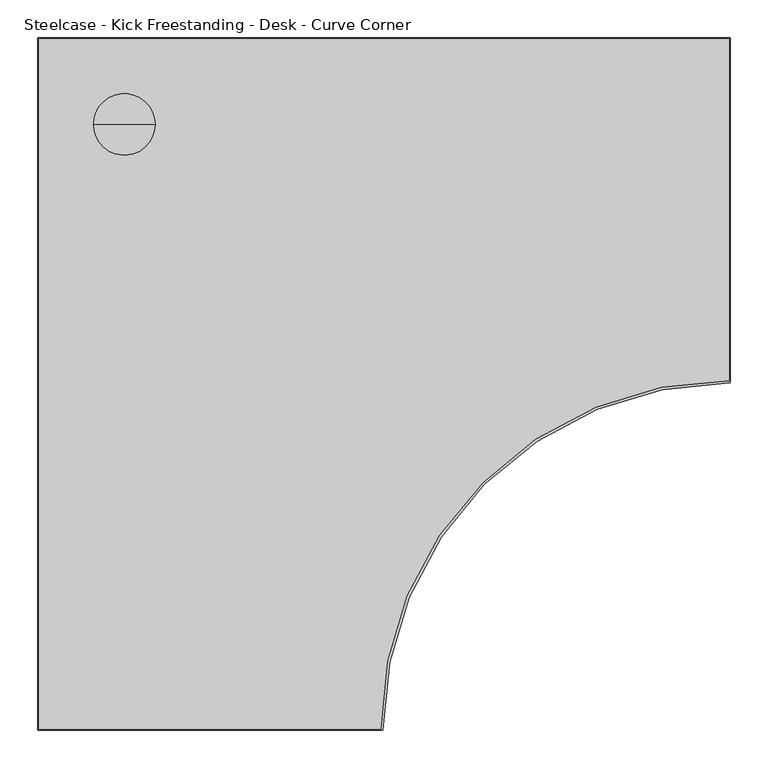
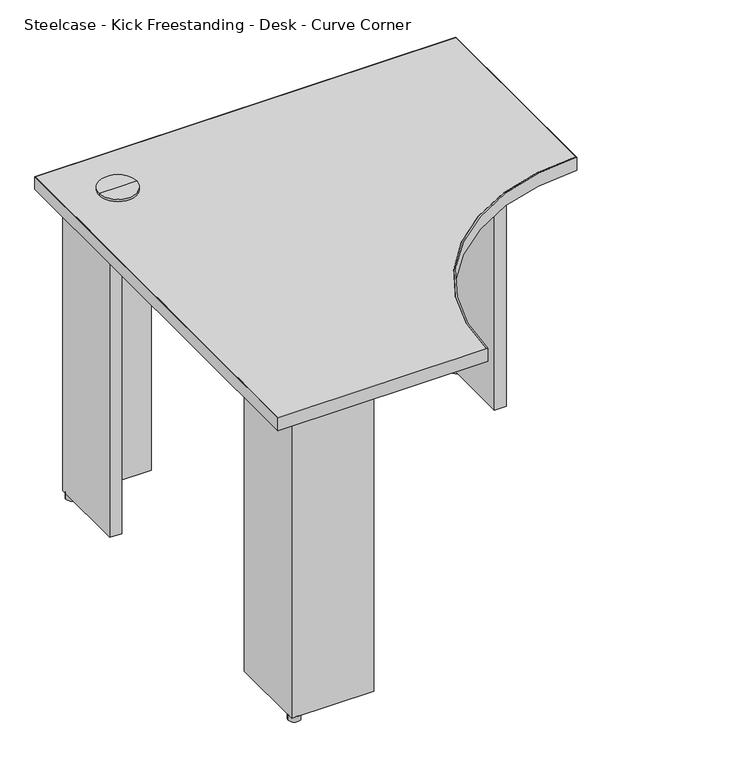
"""IFC4 building model written with IfcOpenShell, lengths in millimetres: furniture geometry, Steelcase - Kick Freestanding - Desk - Curve Corner : 18D x 36W - LPL."""

from ifc_helpers import new_model, si_unit, point, frame, frame_2d, origin, origin_with_axes, place, context, project, spatial, polyline, circle_curve, trimmed, segment, composite_curve, outline, extrude, source, transform, mapped, element, save
from ifc_brep_helpers import plane_surface, cylinder_surface, advanced_brep


def steelcase_kick_freestanding_desk_curve_corner_f05c3951(model_context):
    return source(origin(), model_context, "Body", "SolidModel", [
        extrude(outline(polyline([(721.6393822, -63.5), (721.6393822, -38.1), (899.4393579, -38.1), (899.4393579, -215.8999939), (873.5313463, -215.8999939), (873.5313463, -63.5), (721.6393822, -63.5)])), frame((0.0, 0.0, 12.446), z_axis=(0.0, 0.0, 1.0), x_axis=(1.0, 0.0, 0.0)), (0.0, 0.0, 1.0), 682.498),
        extrude(outline(polyline([(215.8999939, -63.5), (63.5, -63.5), (63.5, -215.8999939), (38.1, -215.8999939), (38.1, -38.1), (215.8999939, -38.1), (215.8999939, -63.5)])), frame((0.0, 0.0, 12.446), z_axis=(0.0, 0.0, 1.0), x_axis=(1.0, 0.0, 0.0)), (0.0, 0.0, 1.0), 682.498),
        advanced_brep(
        [(114.3, -114.3, 728.98), (154.94, -114.3, 728.98), (73.66, -114.3, 728.98), (76.1699693, -114.3, 694.944), (152.4300307, -114.3, 694.944), (114.3, -114.3, 694.944), (76.1699693, -114.3, 723.9), (152.4300307, -114.3, 723.9), (73.66, -114.3, 723.9), (154.94, -114.3, 723.9)],
        [
            (0, 1),
            (1, 2, circle_curve(frame((114.3, -114.3, 728.98), z_axis=(0.0, 0.0, 1.0), x_axis=(1.0, 0.0, 0.0)), 40.64)),
            (2, 0),
            (2, 1, circle_curve(frame((114.3, -114.3, 728.98), z_axis=(0.0, 0.0, 1.0), x_axis=(1.0, 0.0, 0.0)), 40.64)),
            (3, 4, circle_curve(frame((114.3, -114.3, 694.944), z_axis=(0.0, 0.0, -1.0), x_axis=(1.0, 0.0, 0.0)), 38.1300307)),
            (4, 5),
            (5, 3),
            (4, 3, circle_curve(frame((114.3, -114.3, 694.944), z_axis=(0.0, 0.0, -1.0), x_axis=(1.0, 0.0, 0.0)), 38.1300307)),
            (6, 7, circle_curve(frame((114.3, -114.3, 723.9), z_axis=(0.0, 0.0, -1.0), x_axis=(1.0, 0.0, 0.0)), 38.1300307)),
            (7, 4),
            (3, 6),
            (7, 6, circle_curve(frame((114.3, -114.3, 723.9), z_axis=(0.0, 0.0, -1.0), x_axis=(1.0, 0.0, 0.0)), 38.1300307)),
            (8, 9, circle_curve(frame((114.3, -114.3, 723.9), z_axis=(0.0, 0.0, -1.0), x_axis=(1.0, 0.0, 0.0)), 40.64)),
            (9, 7),
            (6, 8),
            (9, 8, circle_curve(frame((114.3, -114.3, 723.9), z_axis=(0.0, 0.0, -1.0), x_axis=(1.0, 0.0, 0.0)), 40.64)),
            (1, 9),
            (8, 2),
        ],
        [
            plane_surface(frame((114.3, -114.3, 728.98), z_axis=(0.0, 0.0, 1.0), x_axis=(1.0, 0.0, 0.0))),
            plane_surface(frame((114.3, -114.3, 694.944), z_axis=(0.0, 0.0, -1.0), x_axis=(1.0, 0.0, 0.0))),
            cylinder_surface(frame((114.3, -114.3, 728.98), z_axis=(0.0, 0.0, 1.0), x_axis=(1.0, 0.0, 0.0)), 38.1300307),
            plane_surface(frame((114.3, -114.3, 723.9), z_axis=(0.0, 0.0, -1.0), x_axis=(1.0, 0.0, 0.0))),
            cylinder_surface(frame((114.3, -114.3, 728.98), z_axis=(0.0, 0.0, 1.0), x_axis=(1.0, 0.0, 0.0)), 40.64),
        ],
        [
            (0, [[1, 2, 3]]),
            (0, [[-3, 4, -1]]),
            (1, [[5, 6, 7]]),
            (1, [[8, -7, -6]]),
            (2, [[9, 10, -5, 11]]),
            (2, [[12, -11, -8, -10]]),
            (3, [[13, 14, -9, 15]]),
            (3, [[16, -15, -12, -14]]),
            (4, [[-2, 17, -13, 18]]),
            (4, [[-4, -18, -16, -17]]),
        ],
    ),
        extrude(outline(composite_curve([segment(trimmed(circle_curve(frame_2d((50.8, -50.8)), 12.7), [point((38.1, -50.8))], [point((63.5, -50.8))], False, "CARTESIAN"), True, "CONTINUOUS"), segment(trimmed(circle_curve(frame_2d((50.8, -50.8)), 12.7), [point((63.5, -50.8))], [point((38.1, -50.8))], False, "CARTESIAN"), True, "CONTINUOUS")], self_intersect=False)), origin_with_axes(), (0.0, 0.0, 1.0), 12.446),
        extrude(outline(composite_curve([segment(trimmed(circle_curve(frame_2d((50.8, -887.7300073)), 12.7484998), [point((38.0515002, -887.7300073))], [point((63.5484998, -887.7300073))], False, "CARTESIAN"), True, "CONTINUOUS"), segment(trimmed(circle_curve(frame_2d((50.8, -887.7300073)), 12.7484998), [point((63.5484998, -887.7300073))], [point((38.0515002, -887.7300073))], False, "CARTESIAN"), True, "CONTINUOUS")], self_intersect=False)), origin_with_axes(), (0.0, 0.0, 1.0), 12.446),
        extrude(outline(composite_curve([segment(trimmed(circle_curve(frame_2d((886.4853521, -50.8)), 12.7), [point((873.7853521, -50.8))], [point((899.1853521, -50.8))], False, "CARTESIAN"), True, "CONTINUOUS"), segment(trimmed(circle_curve(frame_2d((886.4853521, -50.8)), 12.7), [point((899.1853521, -50.8))], [point((873.7853521, -50.8))], False, "CARTESIAN"), True, "CONTINUOUS")], self_intersect=False)), origin_with_axes(), (0.0, 0.0, 1.0), 12.446),
        extrude(outline(polyline([(215.8999939, -875.0300194), (215.8999939, -900.4299952), (38.1, -900.4299952), (38.1, -722.6300194), (63.5, -722.6300194), (63.5, -875.0300194), (215.8999939, -875.0300194)])), frame((0.0, 0.0, 12.446), z_axis=(0.0, 0.0, 1.0), x_axis=(1.0, 0.0, 0.0)), (0.0, 0.0, 1.0), 682.498),
        extrude(outline(composite_curve([segment(polyline([(0.9906, -913.4093628), (0.9906, -0.9906), (913.4093628, -0.9906), (913.4093628, -452.9354109)]), True, "CONTINUOUS"), segment(trimmed(circle_curve(frame_2d((912.1393458, -912.1393458)), 459.2056912), [point((913.4093628, -452.9354109))], [point((452.9354109, -913.4093628))], True, "CARTESIAN"), True, "CONTINUOUS"), segment(polyline([(452.9354109, -913.4093628), (0.9906, -913.4093628)]), True, "CONTINUOUS")], self_intersect=False)), frame((0.0, 0.0, 694.944), z_axis=(0.0, 0.0, 1.0), x_axis=(1.0, 0.0, 0.0)), (0.0, 0.0, 1.0), 28.956),
        extrude(outline(composite_curve([segment(polyline([(914.4, 0.0), (914.4, -455.932629)]), True, "CONTINUOUS"), segment(trimmed(circle_curve(frame_2d((913.129983, -913.129983)), 457.199118), [point((914.4, -455.932629))], [point((455.932629, -914.4))], True, "CARTESIAN"), True, "CONTINUOUS"), segment(polyline([(455.932629, -914.4), (0.0, -914.4), (0.0, 0.0), (914.4, 0.0)]), True, "CONTINUOUS")], self_intersect=False), holes=[composite_curve([segment(polyline([(913.4093628, -0.9906), (0.9906, -0.9906), (0.9906, -913.4093628), (452.9354109, -913.4093628)]), True, "CONTINUOUS"), segment(trimmed(circle_curve(frame_2d((912.1393458, -912.1393458)), 459.2056912), [point((452.9354109, -913.4093628))], [point((913.4093628, -452.9354109))], False, "CARTESIAN"), True, "CONTINUOUS"), segment(polyline([(913.4093628, -452.9354109), (913.4093628, -0.9906)]), True, "CONTINUOUS")], self_intersect=False)]), frame((0.0, 0.0, 694.944), z_axis=(0.0, 0.0, 1.0), x_axis=(1.0, 0.0, 0.0)), (0.0, 0.0, 1.0), 28.956),
    ])


if __name__ == "__main__":
    model = new_model("IFC4")
    model_context = context("Model", 3, world=origin())
    ifc_project = project(units=[si_unit("LENGTHUNIT", "METRE", prefix="MILLI")], contexts=[model_context])
    site = spatial("IfcSite", under=ifc_project)
    building = spatial("IfcBuilding", under=site)
    placement = place(None, origin())
    steelcase_kick_freestanding_desk_curve_corner_shape = steelcase_kick_freestanding_desk_curve_corner_f05c3951(model_context)
    element("IfcFurniture", 1, ObjectType="Steelcase - Kick Freestanding - Desk - Curve Corner : 18D x 36W - LPL", at=placement, inside=building, context=model_context, shape_type="MappedRepresentation", body=[
        mapped(steelcase_kick_freestanding_desk_curve_corner_shape, transform((0.0, 0.0, 0.0), x_axis=(1.0, 0.0, 0.0), y_axis=(0.0, 1.0, 0.0), z_axis=(0.0, 0.0, 1.0))),
    ])
    save(model, "model.ifc")
